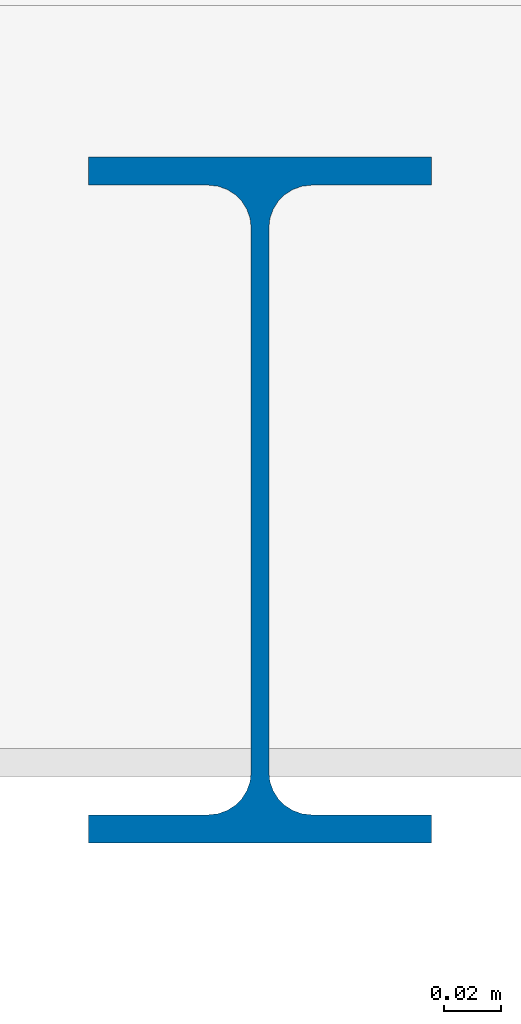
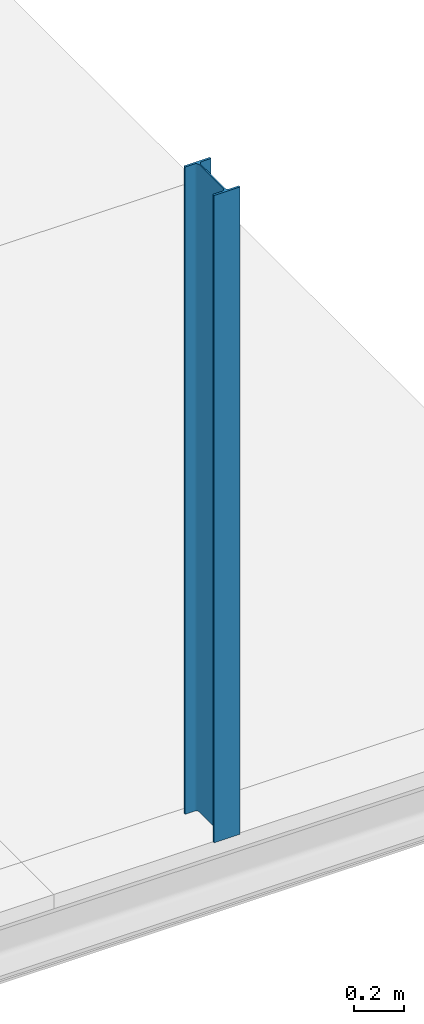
# One storey, part 2 of 36: 1 column.
"""IFC2X3 building model written with IfcOpenShell, lengths in millimetres."""

from ifc_helpers import new_model, entity, si_unit, converted_unit, derived_unit, direction, frame, frame_2d, origin, place, context, subcontext, project, spatial, polyline, circle_curve, parameter, trimmed, segment, composite_curve, outline, extrude, source, transform, mapped, material, type_object, type_shapes, element, save


model = new_model("IFC2X3")

# Units and contexts
model_context = context("Model", 3, precision=0.01, world=origin(), true_north=direction((6.12303176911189e-17, 1.0)))
body_context = subcontext(model_context, "Body", "Model", "MODEL_VIEW")
ifc_project = project(units=[si_unit("LENGTHUNIT", "METRE", prefix="MILLI"), si_unit("AREAUNIT", "SQUARE_METRE"), si_unit("VOLUMEUNIT", "CUBIC_METRE"), converted_unit("PLANEANGLEUNIT", "DEGREE", entity("IfcRatioMeasure", 0.0174532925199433), si_unit("PLANEANGLEUNIT", "RADIAN"), dimensions=[0, 0, 0, 0, 0, 0, 0]), si_unit("MASSUNIT", "GRAM", prefix="KILO"), derived_unit("MASSDENSITYUNIT", [(si_unit("MASSUNIT", "GRAM", prefix="KILO"), 1), (si_unit("LENGTHUNIT", "METRE"), -3)]), si_unit("TIMEUNIT", "SECOND"), si_unit("FREQUENCYUNIT", "HERTZ"), si_unit("THERMODYNAMICTEMPERATUREUNIT", "DEGREE_CELSIUS"), derived_unit("THERMALTRANSMITTANCEUNIT", [(si_unit("MASSUNIT", "GRAM", prefix="KILO"), 1), (si_unit("THERMODYNAMICTEMPERATUREUNIT", "KELVIN"), -1), (si_unit("TIMEUNIT", "SECOND"), -3)]), derived_unit("VOLUMETRICFLOWRATEUNIT", [(si_unit("LENGTHUNIT", "METRE"), 3), (si_unit("TIMEUNIT", "SECOND"), -1)]), si_unit("ELECTRICCURRENTUNIT", "AMPERE"), si_unit("ELECTRICVOLTAGEUNIT", "VOLT"), si_unit("POWERUNIT", "WATT"), si_unit("FORCEUNIT", "NEWTON", prefix="KILO"), si_unit("ILLUMINANCEUNIT", "LUX"), si_unit("LUMINOUSFLUXUNIT", "LUMEN"), si_unit("LUMINOUSINTENSITYUNIT", "CANDELA"), derived_unit("USERDEFINED", [(si_unit("MASSUNIT", "GRAM", prefix="KILO"), -1), (si_unit("LENGTHUNIT", "METRE"), -2), (si_unit("TIMEUNIT", "SECOND"), 3), (si_unit("LUMINOUSFLUXUNIT", "LUMEN"), 1)]), derived_unit("LINEARVELOCITYUNIT", [(si_unit("LENGTHUNIT", "METRE"), 1), (si_unit("TIMEUNIT", "SECOND"), -1)]), si_unit("PRESSUREUNIT", "PASCAL"), derived_unit("USERDEFINED", [(si_unit("LENGTHUNIT", "METRE"), -2), (si_unit("MASSUNIT", "GRAM", prefix="KILO"), 1), (si_unit("TIMEUNIT", "SECOND"), -2)])], contexts=[model_context])

# Site, building, storey
site_placement = place(None, origin())
site = spatial("IfcSite", under=ifc_project, at=site_placement, Name="Default", CompositionType="ELEMENT")
building_placement = place(site_placement, origin())
building = spatial("IfcBuilding", under=site, at=building_placement, Name="niet gebruiken", CompositionType="ELEMENT")
storey_placement = place(building_placement, frame((0.0, 0.0, 12600.0)))
storey = spatial("IfcBuildingStorey", under=building, at=storey_placement, Name="04 vierde verdieping", CompositionType="ELEMENT", Elevation=12600.0)

# Column
ifc_material = material(Name="NLRS_h2_staal")
column_type = type_object("IfcColumnType", Name="kolom IPE 240", PredefinedType="COLUMN", material=ifc_material)
shared_shape = source(origin(), body_context, "Body", "SweptSolid", [
    extrude(outline(composite_curve([segment(polyline([(110.199999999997, -60.0), (120.0, -60.0)]), True, "CONTINUOUS"), segment(polyline([(120.0, -60.0), (120.0, 60.0)]), True, "CONTINUOUS"), segment(polyline([(120.0, 60.0), (110.199999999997, 60.0)]), True, "CONTINUOUS"), segment(polyline([(110.199999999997, 60.0), (110.199999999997, 18.0999999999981)]), True, "CONTINUOUS"), segment(trimmed(circle_curve(frame_2d((95.1999999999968, 18.0999999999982), x_axis=(1.0, 0.0)), 15.0), [parameter(270.0)], [parameter(0.0)], True, "PARAMETER"), False, "CONTINUOUS"), segment(polyline([(95.1999999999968, 3.09999999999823), (-95.1999999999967, 3.09999999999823)]), True, "CONTINUOUS"), segment(trimmed(circle_curve(frame_2d((-95.1999999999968, 18.0999999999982), x_axis=(0.0, -1.0)), 15.0), [parameter(270.0)], [parameter(0.0)], True, "PARAMETER"), False, "CONTINUOUS"), segment(polyline([(-110.199999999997, 18.0999999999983), (-110.199999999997, 60.0)]), True, "CONTINUOUS"), segment(polyline([(-110.199999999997, 60.0), (-120.0, 60.0)]), True, "CONTINUOUS"), segment(polyline([(-120.0, 60.0), (-120.0, -60.0)]), True, "CONTINUOUS"), segment(polyline([(-120.0, -60.0), (-110.199999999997, -60.0)]), True, "CONTINUOUS"), segment(polyline([(-110.199999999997, -60.0), (-110.199999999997, -18.1000000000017)]), True, "CONTINUOUS"), segment(trimmed(circle_curve(frame_2d((-95.1999999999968, -18.1000000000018), x_axis=(-1.0, 0.0)), 15.0), [parameter(270.0)], [parameter(0.0)], True, "PARAMETER"), False, "CONTINUOUS"), segment(polyline([(-95.1999999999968, -3.10000000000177), (95.1999999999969, -3.10000000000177)]), True, "CONTINUOUS"), segment(trimmed(circle_curve(frame_2d((95.1999999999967, -18.1000000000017), x_axis=(0.0, 1.0)), 15.0), [parameter(270.0)], [parameter(0.0)], True, "PARAMETER"), False, "CONTINUOUS"), segment(polyline([(110.199999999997, -18.1000000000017), (110.199999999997, -60.0)]), True, "CONTINUOUS")], self_intersect=False)), frame((0.0, 0.0, 11930.0), z_axis=(0.0, 0.0, 1.0), x_axis=(0.0, -1.0, 0.0)), (0.0, 0.0, 1.0), 3160.0),
])
type_shapes(column_type, [shared_shape])
column_placement = place(storey_placement, frame((122310.0, 1657.0, -12600.0)))
element("IfcColumn", 1, at=column_placement, inside=storey, type_object=column_type, material=ifc_material, Name="NLRS_28.11_SCO_TLB_stalen kolom IPE_gen:kolom IPE 240", ObjectType="kolom IPE 240", context=body_context, shape_type="MappedRepresentation", body=[
    mapped(shared_shape, transform((0.0, 0.0, 0.0), scale=1.0)),
])

save(model, "model.ifc")
